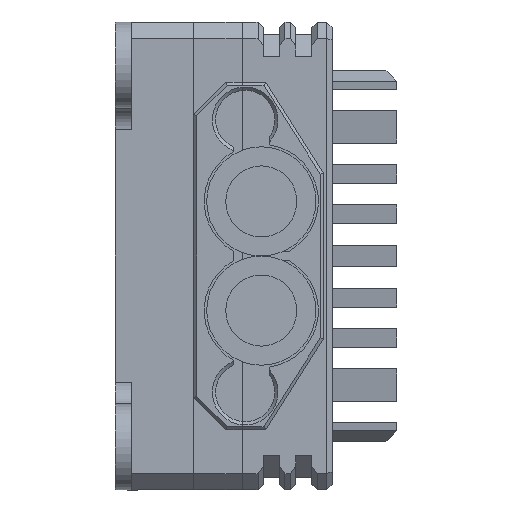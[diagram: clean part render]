
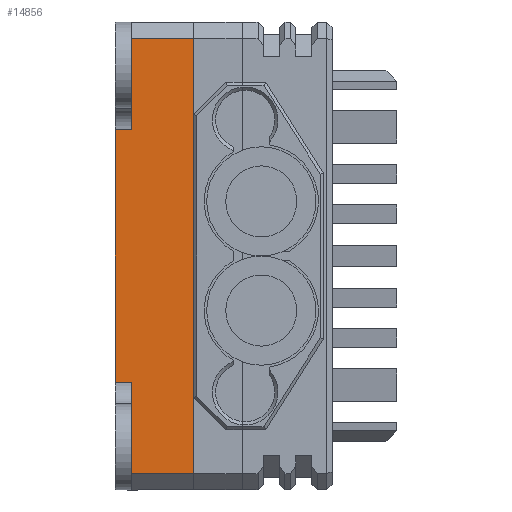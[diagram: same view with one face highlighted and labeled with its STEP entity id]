
A CAD part, left-side view. The second image highlights one B-rep face of the part: STEP entity #14856.
In plain terms, the highlighted planar face has unit normal (-1, 0, 0).
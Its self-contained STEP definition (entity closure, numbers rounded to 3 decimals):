
#774=PLANE('',#15815);
#1595=FACE_OUTER_BOUND('',#2452,.T.);
#2452=EDGE_LOOP('',(#13470,#13471,#13472,#13473,#13474,#13475,#13476,#13477));
#4408=LINE('',#23411,#6289);
#4421=LINE('',#23466,#6302);
#4423=LINE('',#23472,#6304);
#4424=LINE('',#23473,#6305);
#4425=LINE('',#23475,#6306);
#4426=LINE('',#23477,#6307);
#4427=LINE('',#23479,#6308);
#4428=LINE('',#23480,#6309);
#6289=VECTOR('',#19178,10.);
#6302=VECTOR('',#19237,10.);
#6304=VECTOR('',#19243,10.);
#6305=VECTOR('',#19244,10.);
#6306=VECTOR('',#19245,10.);
#6307=VECTOR('',#19246,10.);
#6308=VECTOR('',#19247,10.);
#6309=VECTOR('',#19248,10.);
#7689=VERTEX_POINT('',#23408);
#7690=VERTEX_POINT('',#23410);
#7708=VERTEX_POINT('',#23463);
#7709=VERTEX_POINT('',#23465);
#7711=VERTEX_POINT('',#23471);
#7712=VERTEX_POINT('',#23474);
#7713=VERTEX_POINT('',#23476);
#7714=VERTEX_POINT('',#23478);
#9642=EDGE_CURVE('',#7689,#7690,#4408,.T.);
#9669=EDGE_CURVE('',#7708,#7709,#4421,.T.);
#9672=EDGE_CURVE('',#7708,#7711,#4423,.T.);
#9673=EDGE_CURVE('',#7690,#7711,#4424,.T.);
#9674=EDGE_CURVE('',#7712,#7689,#4425,.T.);
#9675=EDGE_CURVE('',#7712,#7713,#4426,.T.);
#9676=EDGE_CURVE('',#7714,#7713,#4427,.T.);
#9677=EDGE_CURVE('',#7709,#7714,#4428,.T.);
#13470=ORIENTED_EDGE('',*,*,#9669,.F.);
#13471=ORIENTED_EDGE('',*,*,#9672,.T.);
#13472=ORIENTED_EDGE('',*,*,#9673,.F.);
#13473=ORIENTED_EDGE('',*,*,#9642,.F.);
#13474=ORIENTED_EDGE('',*,*,#9674,.F.);
#13475=ORIENTED_EDGE('',*,*,#9675,.T.);
#13476=ORIENTED_EDGE('',*,*,#9676,.F.);
#13477=ORIENTED_EDGE('',*,*,#9677,.F.);
#14856=ADVANCED_FACE('',(#1595),#774,.T.);
#15815=AXIS2_PLACEMENT_3D('',#23470,#19241,#19242);
#19178=DIRECTION('',(0.,0.,-1.));
#19237=DIRECTION('',(0.,1.,0.));
#19241=DIRECTION('center_axis',(-1.,0.,0.));
#19242=DIRECTION('ref_axis',(0.,0.,1.));
#19243=DIRECTION('',(0.,0.,-1.));
#19244=DIRECTION('',(0.,1.,0.));
#19245=DIRECTION('',(0.,-1.,0.));
#19246=DIRECTION('',(0.,0.,-1.));
#19247=DIRECTION('',(0.,-1.,0.));
#19248=DIRECTION('',(0.,0.,1.));
#23408=CARTESIAN_POINT('',(-8.752,0.,4.75));
#23410=CARTESIAN_POINT('',(-8.752,0.,-35.75));
#23411=CARTESIAN_POINT('',(-8.752,0.,-26.375));
#23463=CARTESIAN_POINT('',(-8.752,5.77,-27.25));
#23465=CARTESIAN_POINT('',(-8.752,7.27,-27.25));
#23466=CARTESIAN_POINT('',(-8.752,-0.808,-27.25));
#23470=CARTESIAN_POINT('Origin',(-8.752,-8.885,-37.25));
#23471=CARTESIAN_POINT('',(-8.752,5.77,-35.75));
#23472=CARTESIAN_POINT('',(-8.752,5.77,-35.25));
#23473=CARTESIAN_POINT('',(-8.752,-8.885,-35.75));
#23474=CARTESIAN_POINT('',(-8.752,5.77,4.75));
#23475=CARTESIAN_POINT('',(-8.752,-8.885,4.75));
#23476=CARTESIAN_POINT('',(-8.752,5.77,-3.75));
#23477=CARTESIAN_POINT('',(-8.752,5.77,-17.5));
#23478=CARTESIAN_POINT('',(-8.752,7.27,-3.75));
#23479=CARTESIAN_POINT('',(-8.752,-0.808,-3.75));
#23480=CARTESIAN_POINT('',(-8.752,7.27,-37.25));
